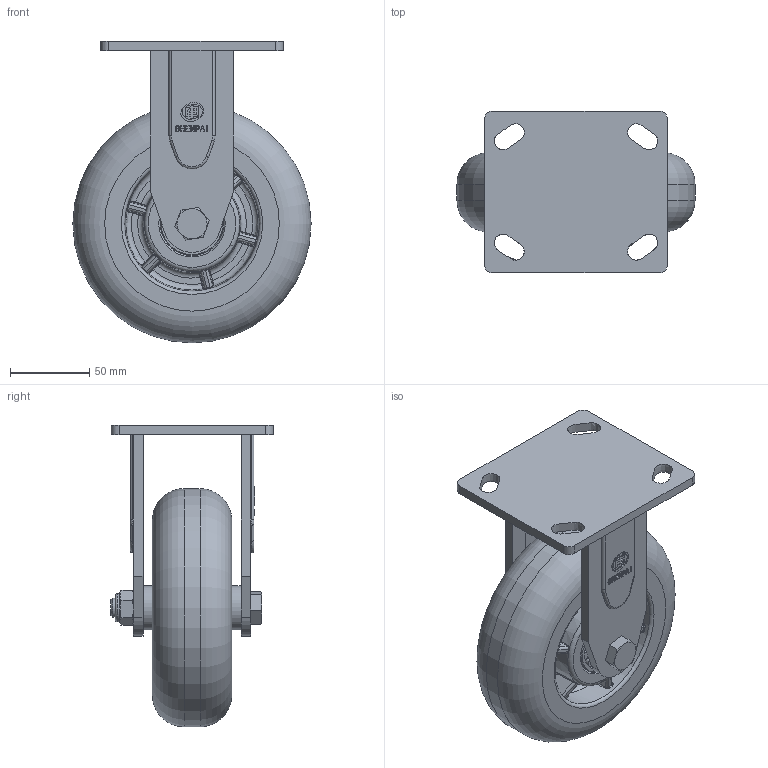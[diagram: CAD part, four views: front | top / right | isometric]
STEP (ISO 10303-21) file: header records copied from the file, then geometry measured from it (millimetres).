
FILE_DESCRIPTION(/* description */ (''),/* implementation_level */ '2;1');
FILE_NAME(/* name */ '35D09_6_R.stp',/* time_stamp */ '2022-10-17T13:56:21+08:00',/* author */ (''),/* organization */ (''),/* preprocessor_version */ 'ST-DEVELOPER v14',/* originating_system */ 'SIEMENS PLM Software NX 8.0',/* authorisation */ '');
FILE_SCHEMA (('AUTOMOTIVE_DESIGN { 1 0 10303 214 3 1 1 1 }'));
Length unit declared in the file: millimetre
Products named in the file (1): 35D09_6_R
Bounding box: 150 x 102.1 x 190 mm (x, y, z)
Volume: 839488 mm3; surface area: 142059.4 mm2
Topology: 1 solids, 4 shells, 873 faces, 2268 edges, 1401 vertices
Faces by surface type: plane 386, cylinder 205, bspline 192, cone 49, torus 37, extrusion 4
Full cylindrical faces by diameter (mm): 12 x2, 12.3 x2, 12.4 x1, 18 x1, 19.9 x3, 20.5 x2, 24.188 x4, 28 x2, 32.812 x2, 39.85 x2, 40 x2, 150 x1
Entity records: 42637 total; most frequent: CARTESIAN_POINT 23073, ORIENTED_EDGE 4358, DIRECTION 3773, EDGE_CURVE 2179, AXIS2_PLACEMENT_3D 1606, VERTEX_POINT 1366, EDGE_LOOP 981, CIRCLE 916
